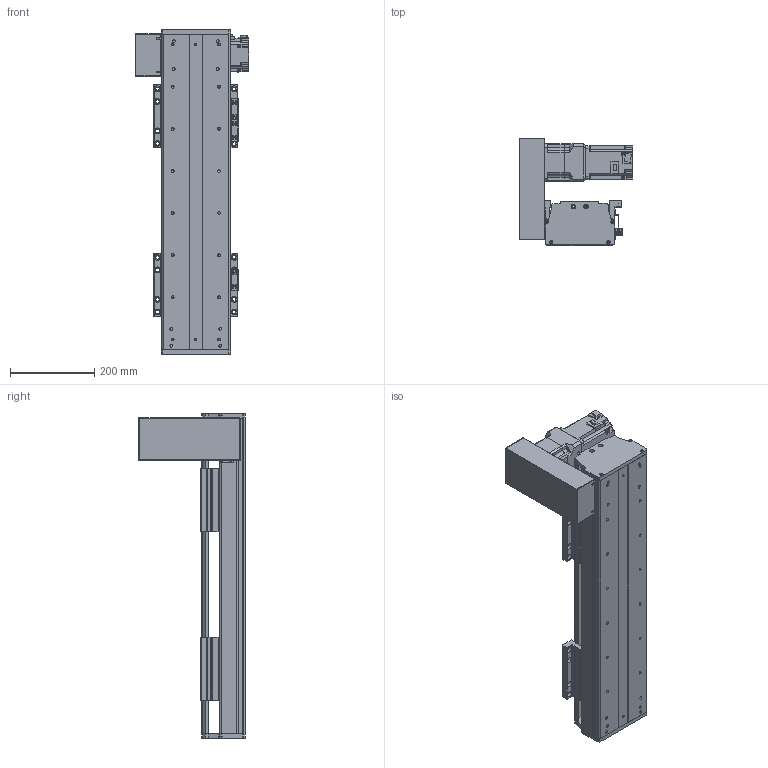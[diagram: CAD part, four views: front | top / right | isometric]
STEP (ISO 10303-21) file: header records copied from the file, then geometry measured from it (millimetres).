
FILE_DESCRIPTION(/* description */ (''),/* implementation_level */ '2;1');
FILE_NAME(/* name */ 'C:\Users\PC\Desktop\3D도면\STEP\DSB165-UL7G-W0400-R.stp',/* time_stamp */ '2018-06-25T15:11:00+09:00',/* author */ ('PC'),/* organization */ (''),/* preprocessor_version */ 'ST-DEVELOPER v16.5',/* originating_system */ 'Autodesk Inventor 2017',/* authorisation */ '');
FILE_SCHEMA (('AUTOMOTIVE_DESIGN { 1 0 10303 214 3 1 1 }'));
Length unit declared in the file: millimetre
Products named in the file (12): DSB165-L; DSR165-BASE_S; hg-kr73_; ab0901-p0401300102; 11-DBS165 BELT COVER; DBS165-COVER; DBS165-COVER_1; DBS165-UP COVER; DSR126-SENSOR DOG; pm-y65_step; SENSOR BRACKET(EE-SX674A); DBS165-TABLE(MSA20S)
Assembly tree (16 placements, depth 2):
  DSB165-L
    DSR165-BASE_S
    hg-kr73_
    ab0901-p0401300102
    11-DBS165 BELT COVER
    DBS165-COVER
    DBS165-COVER_1
    DBS165-UP COVER
    DSR126-SENSOR DOG
    pm-y65_step  x3
    SENSOR BRACKET(EE-SX674A)  x3
    DBS165-TABLE(MSA20S)  x2
Bounding box: 270 x 254 x 770 mm (x, y, z)
Volume: 6125301.1 mm3; surface area: 1402231 mm2
Topology: 17 solids, 22 shells, 1647 faces, 4427 edges, 2924 vertices
Faces by surface type: plane 926, cylinder 609, cone 100, sphere 8, torus 4
Full cylindrical faces by diameter (mm): 2.459 x20, 3.5 x6, 4.134 x38, 4.5 x18, 5 x27, 5.5 x36, 5.9 x4, 6 x8, 6.6 x14, 6.647 x32, 6.8 x1, 7 x4, 7.6 x4, 8 x1, 8.4 x1, 8.5 x24, 8.7 x1, 9.5 x32, 11 x6, 14 x16, 19 x1, 22 x1, 24 x1, 25 x1, 28 x1, 67 x1, 70 x2, 80 x1
Entity records: 35069 total; most frequent: DIRECTION 6188, CARTESIAN_POINT 6019, ORIENTED_EDGE 5494, EDGE_CURVE 2752, AXIS2_PLACEMENT_3D 2264, VERTEX_POINT 1957, EDGE_LOOP 1691, LINE 1660
